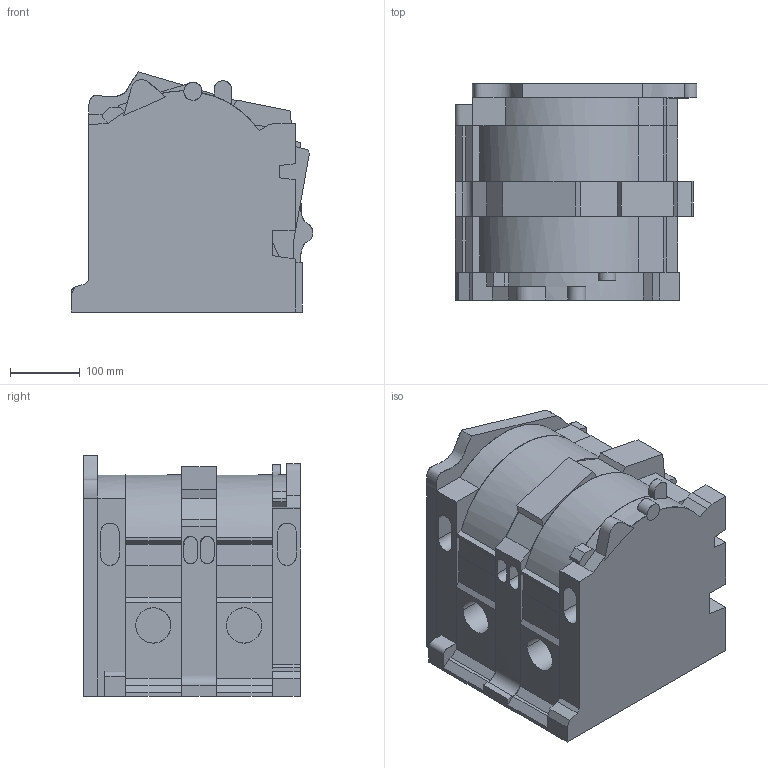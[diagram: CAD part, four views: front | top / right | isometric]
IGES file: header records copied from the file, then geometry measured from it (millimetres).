
Global section: file name: C:\Rhino-files\Just-engine\Monty-iges-solid-works.igs; native system: Rhinoceros ( Nov 11 2003 ); preprocessor: Trout Lake IGES 012 Nov 11 2003; date: 050922.201816; units: inch
Bounding box: 347.98 x 311.34 x 345.44 mm (x, y, z)
Surface area: 1314196 mm2 (no closed solid volume)
Topology: 0 solids, 0 shells, 157 faces, 970 edges, 970 vertices
Faces by surface type: bspline 157
